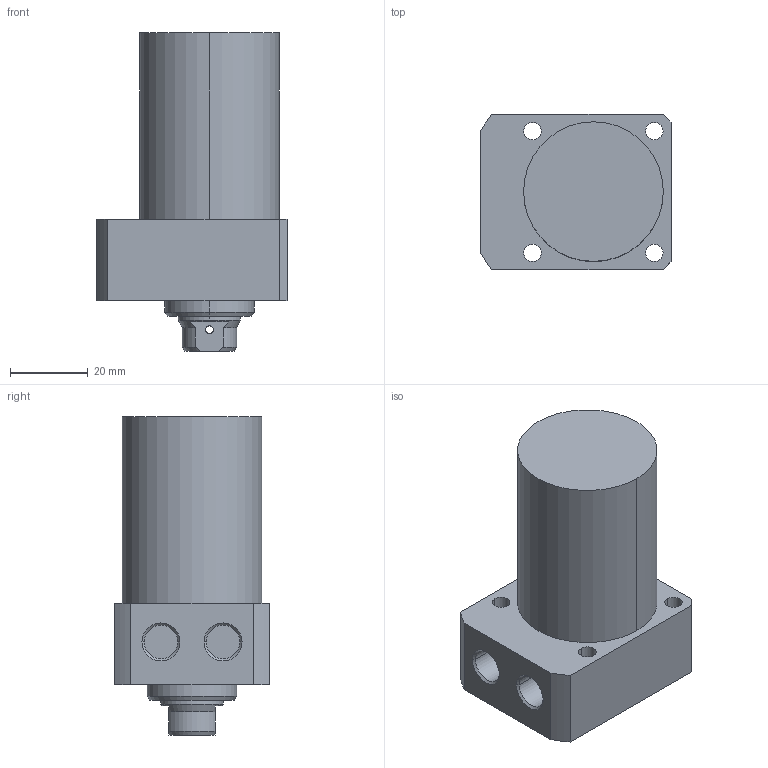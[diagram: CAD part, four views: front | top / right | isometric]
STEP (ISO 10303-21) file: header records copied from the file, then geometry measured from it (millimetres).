
FILE_DESCRIPTION((' '),'2;1');
FILE_NAME( 'TLLR-036CB-040.STEP.stp', '2025-10-24T16:35:45', (' '), ('--- Datakit www.datakit.com---'), ' Datakit CrossCadWare V2024.1 Dec 21 2023', 'Mastercam 2025', ' ');
FILE_SCHEMA(('AUTOMOTIVE_DESIGN { 1 0 10303 214 1 1 1 1 }'));
Length unit declared in the file: millimetre
Products named in the file (1): TLLR-036CB-040
Bounding box: 49 x 40 x 82 mm (x, y, z)
Volume: 89539.4 mm3; surface area: 15541 mm2
Topology: 1 solids, 1 shells, 65 faces, 192 edges, 133 vertices
Faces by surface type: cylinder 32, plane 19, cone 14
Entity records: 2878 total; most frequent: CARTESIAN_POINT 1013, DIRECTION 410, ORIENTED_EDGE 380, EDGE_CURVE 190, AXIS2_PLACEMENT_3D 170, VERTEX_POINT 133, CIRCLE 104, EDGE_LOOP 83
